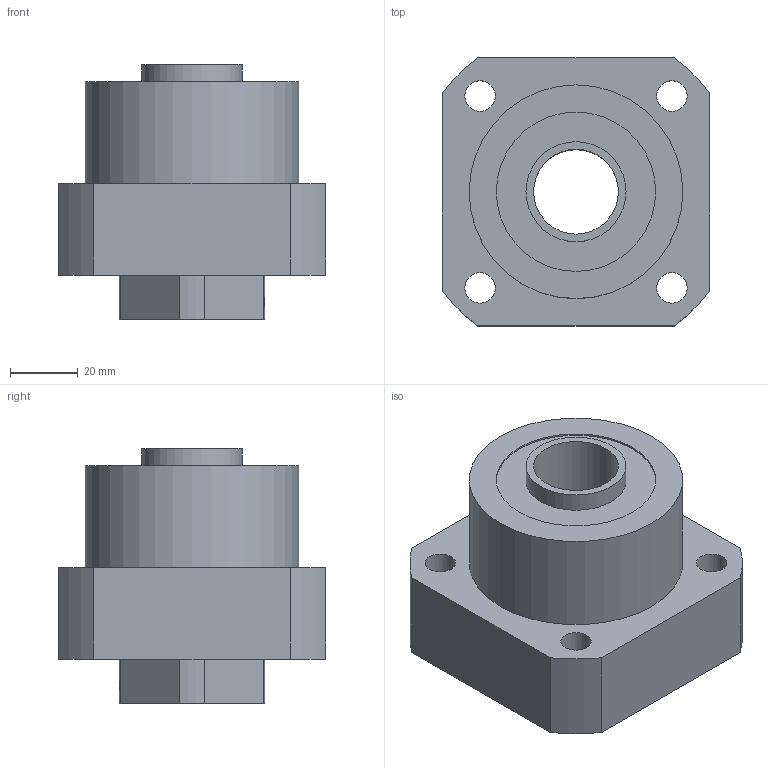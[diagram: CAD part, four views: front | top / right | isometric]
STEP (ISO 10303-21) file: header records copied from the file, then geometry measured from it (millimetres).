
FILE_DESCRIPTION(/* description */ (''),/* implementation_level */ '2;1');
FILE_NAME(/* name */ 'C:\Users\tenki620635\Desktop\官網\圖面\軸承座\3D\setp檔\FK25-Atype.stp',/* time_stamp */ '2020-12-18T19:54:22+08:00',/* author */ ('tenki620635'),/* organization */ (''),/* preprocessor_version */ 'ST-DEVELOPER v15.2',/* originating_system */ 'Autodesk Inventor 2014',/* authorisation */ '');
FILE_SCHEMA (('AUTOMOTIVE_DESIGN { 1 0 10303 214 3 1 1 }'));
Length unit declared in the file: millimetre
Products named in the file (1): FK25-Atype
Bounding box: 79 x 79 x 75 mm (x, y, z)
Volume: 223175.8 mm3; surface area: 38438.5 mm2
Topology: 1 solids, 1 shells, 46 faces, 106 edges, 72 vertices
Faces by surface type: cylinder 25, plane 21
Full cylindrical faces by diameter (mm): 4.917 x2, 9 x4, 15 x4, 25 x1, 29.5 x2, 32 x1, 47 x2, 63 x1
Entity records: 1375 total; most frequent: CARTESIAN_POINT 335, DIRECTION 218, ORIENTED_EDGE 168, AXIS2_PLACEMENT_3D 93, EDGE_LOOP 88, EDGE_CURVE 84, VERTEX_POINT 68, FACE_BOUND 52
